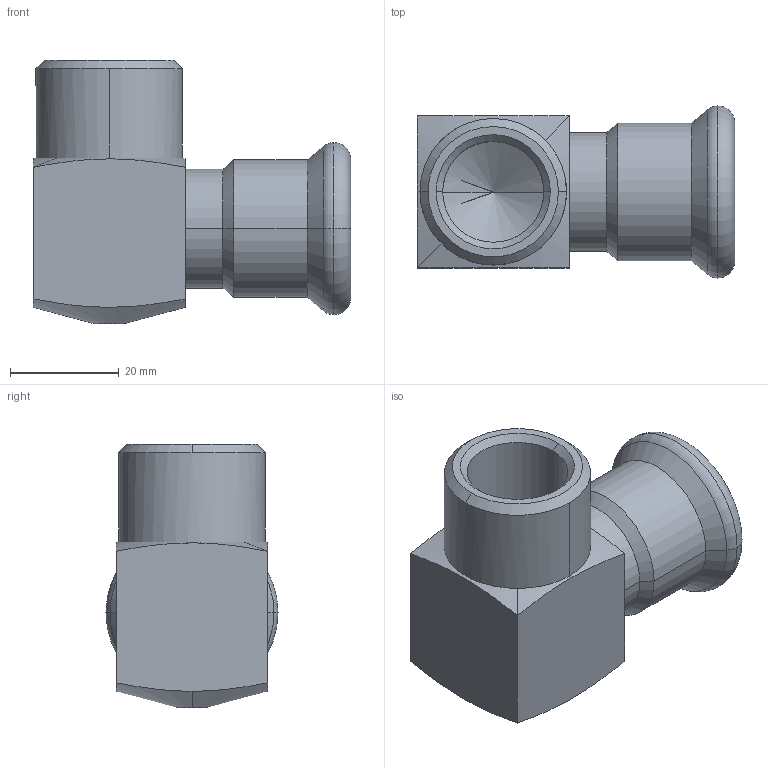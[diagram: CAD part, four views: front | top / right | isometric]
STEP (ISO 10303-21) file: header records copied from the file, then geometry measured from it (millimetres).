
FILE_DESCRIPTION(('CoCreate Modeling STEP Export'),'2;1');
FILE_NAME('C1409 22 Rp1-2.stp','2014-11-07T16:49:16',(''),(''),'CoCreate Modeling STEP processor for AP214 (Solid Model)','CoCreate Modeling 17.00A 17-Jun-2010 (C) Parametric Technology GmbH','');
FILE_SCHEMA(('AUTOMOTIVE_DESIGN { 1 0 10303 214 1 1 1 1 }'));
Length unit declared in the file: millimetre
Products named in the file (2): C4109-22-RP-1-2
Assembly tree (1 placements, depth 2):
  C4109-22-RP-1-2
    C4109-22-RP-1-2
Bounding box: 58.5 x 31.7 x 48.5 mm (x, y, z)
Volume: 23812.6 mm3; surface area: 13781.7 mm2
Topology: 1 solids, 1 shells, 53 faces, 126 edges, 77 vertices
Faces by surface type: cylinder 20, cone 16, plane 13, torus 4
Entity records: 2897 total; most frequent: CARTESIAN_POINT 1761, ORIENTED_EDGE 248, DIRECTION 191, EDGE_CURVE 124, VERTEX_POINT 77, AXIS2_PLACEMENT_3D 76, EDGE_LOOP 59, FACE_OUTER_BOUND 53
